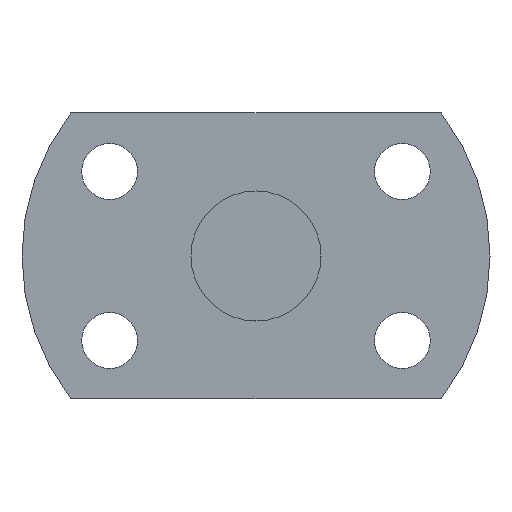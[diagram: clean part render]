
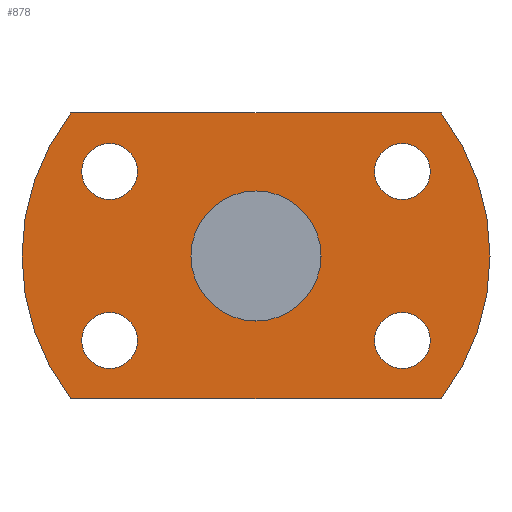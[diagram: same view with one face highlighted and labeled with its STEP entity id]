
A CAD part, left-side view. The second image highlights one B-rep face of the part: STEP entity #878.
In plain terms, the highlighted planar face has unit normal (-1, 0, 0).
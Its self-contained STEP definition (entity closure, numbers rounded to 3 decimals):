
#230=CARTESIAN_POINT('',(135.0,11.258,-4.35));
#231=VERTEX_POINT('',#230);
#232=CARTESIAN_POINT('',(135.0,11.258,-6.5));
#233=DIRECTION('',(1.0,0.0,0.0));
#234=DIRECTION('',(0.0,0.0,1.0));
#235=AXIS2_PLACEMENT_3D('',#232,#233,#234);
#236=CIRCLE('',#235,2.15);
#237=EDGE_CURVE('',#231,#231,#236,.T.);
#279=CARTESIAN_POINT('',(135.0,-11.258,8.65));
#280=VERTEX_POINT('',#279);
#281=CARTESIAN_POINT('',(135.0,-11.258,6.5));
#282=DIRECTION('',(1.0,0.0,0.0));
#283=DIRECTION('',(0.0,0.0,1.0));
#284=AXIS2_PLACEMENT_3D('',#281,#282,#283);
#285=CIRCLE('',#284,2.15);
#286=EDGE_CURVE('',#280,#280,#285,.T.);
#328=CARTESIAN_POINT('',(135.0,-11.258,-4.35));
#329=VERTEX_POINT('',#328);
#330=CARTESIAN_POINT('',(135.0,-11.258,-6.5));
#331=DIRECTION('',(1.0,0.0,0.0));
#332=DIRECTION('',(0.0,0.0,1.0));
#333=AXIS2_PLACEMENT_3D('',#330,#331,#332);
#334=CIRCLE('',#333,2.15);
#335=EDGE_CURVE('',#329,#329,#334,.T.);
#377=CARTESIAN_POINT('',(135.0,11.258,8.65));
#378=VERTEX_POINT('',#377);
#379=CARTESIAN_POINT('',(135.0,11.258,6.5));
#380=DIRECTION('',(1.0,0.0,0.0));
#381=DIRECTION('',(0.0,0.0,1.0));
#382=AXIS2_PLACEMENT_3D('',#379,#380,#381);
#383=CIRCLE('',#382,2.15);
#384=EDGE_CURVE('',#378,#378,#383,.T.);
#684=CARTESIAN_POINT('',(135.0,-14.248,-11.0));
#685=VERTEX_POINT('',#684);
#692=CARTESIAN_POINT('',(135.0,14.248,-11.0));
#693=VERTEX_POINT('',#692);
#694=CARTESIAN_POINT('',(135.0,14.248,-11.0));
#695=DIRECTION('',(0.0,-1.0,0.0));
#696=VECTOR('',#695,28.496);
#697=LINE('',#694,#696);
#698=EDGE_CURVE('',#693,#685,#697,.T.);
#715=CARTESIAN_POINT('',(135.0,-14.248,11.0));
#716=VERTEX_POINT('',#715);
#723=CARTESIAN_POINT('',(135.0,0.0,0.));
#724=DIRECTION('',(-1.0,0.0,0.0));
#725=DIRECTION('',(0.0,0.0,1.0));
#726=AXIS2_PLACEMENT_3D('',#723,#724,#725);
#727=CIRCLE('',#726,18.0);
#728=EDGE_CURVE('',#685,#716,#727,.T.);
#740=CARTESIAN_POINT('',(135.0,14.248,11.0));
#741=VERTEX_POINT('',#740);
#748=CARTESIAN_POINT('',(135.0,-14.248,11.0));
#749=DIRECTION('',(0.0,1.0,0.0));
#750=VECTOR('',#749,28.496);
#751=LINE('',#748,#750);
#752=EDGE_CURVE('',#716,#741,#751,.T.);
#765=CARTESIAN_POINT('',(135.0,0.0,0.));
#766=DIRECTION('',(-1.0,0.0,0.0));
#767=DIRECTION('',(0.0,0.0,1.0));
#768=AXIS2_PLACEMENT_3D('',#765,#766,#767);
#769=CIRCLE('',#768,18.0);
#770=EDGE_CURVE('',#741,#693,#769,.T.);
#844=CARTESIAN_POINT('',(135.0,0.0,7.5));
#845=DIRECTION('',(-1.0,0.0,0.0));
#846=DIRECTION('',(0.0,0.0,1.0));
#847=AXIS2_PLACEMENT_3D('',#844,#845,#846);
#848=PLANE('',#847);
#849=ORIENTED_EDGE('',*,*,#770,.T.);
#850=ORIENTED_EDGE('',*,*,#698,.T.);
#851=ORIENTED_EDGE('',*,*,#728,.T.);
#852=ORIENTED_EDGE('',*,*,#752,.T.);
#853=EDGE_LOOP('',(#849,#850,#851,#852));
#854=FACE_OUTER_BOUND('',#853,.T.);
#855=ORIENTED_EDGE('',*,*,#237,.T.);
#856=EDGE_LOOP('',(#855));
#857=FACE_BOUND('',#856,.T.);
#858=ORIENTED_EDGE('',*,*,#286,.T.);
#859=EDGE_LOOP('',(#858));
#860=FACE_BOUND('',#859,.T.);
#861=ORIENTED_EDGE('',*,*,#335,.T.);
#862=EDGE_LOOP('',(#861));
#863=FACE_BOUND('',#862,.T.);
#864=ORIENTED_EDGE('',*,*,#384,.T.);
#865=EDGE_LOOP('',(#864));
#866=FACE_BOUND('',#865,.T.);
#867=CARTESIAN_POINT('',(135.0,0.0,5.));
#868=VERTEX_POINT('',#867);
#869=CARTESIAN_POINT('',(135.0,0.0,0.));
#870=DIRECTION('',(-1.0,0.0,0.0));
#871=DIRECTION('',(0.0,0.0,1.0));
#872=AXIS2_PLACEMENT_3D('',#869,#870,#871);
#873=CIRCLE('',#872,5.);
#874=EDGE_CURVE('',#868,#868,#873,.T.);
#875=ORIENTED_EDGE('',*,*,#874,.F.);
#876=EDGE_LOOP('',(#875));
#877=FACE_BOUND('',#876,.T.);
#878=ADVANCED_FACE('',(#854,#857,#860,#863,#866,#877),#848,.T.);
